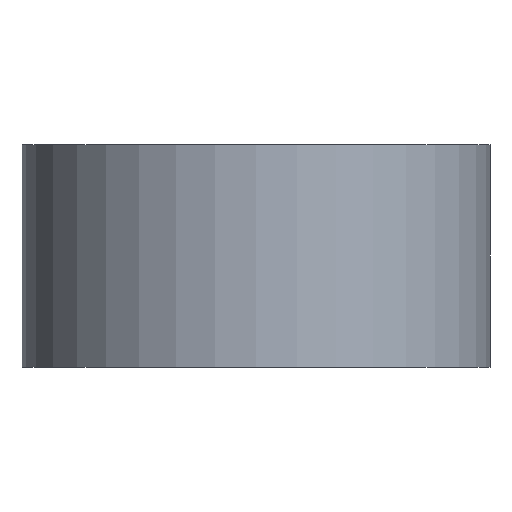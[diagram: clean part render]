
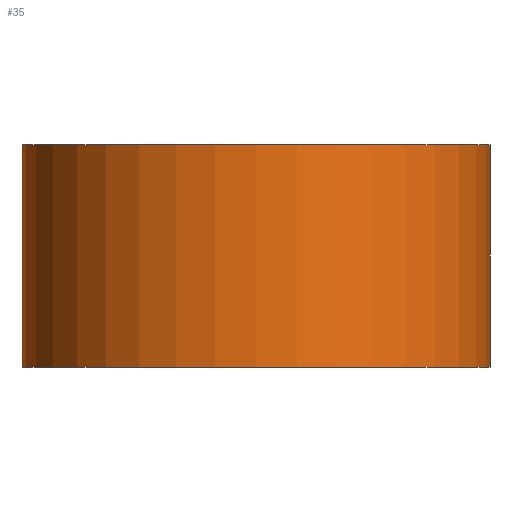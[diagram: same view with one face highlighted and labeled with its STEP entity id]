
A CAD part, front view. The second image highlights one B-rep face of the part: STEP entity #35.
In plain terms, the highlighted cylindrical face has radius 6.1 mm (diameter 12.2 mm), a full revolution.
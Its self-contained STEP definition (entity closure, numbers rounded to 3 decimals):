
#35 = ADVANCED_FACE('',(#36),#49,.T.);
#36 = FACE_BOUND('',#37,.T.);
#37 = EDGE_LOOP('',(#38,#72,#95,#122));
#38 = ORIENTED_EDGE('',*,*,#39,.F.);
#39 = EDGE_CURVE('',#40,#40,#42,.T.);
#40 = VERTEX_POINT('',#41);
#41 = CARTESIAN_POINT('',(6.1,0.,2.9));
#42 = SURFACE_CURVE('',#43,(#48,#60),.PCURVE_S1.);
#43 = CIRCLE('',#44,6.1);
#44 = AXIS2_PLACEMENT_3D('',#45,#46,#47);
#45 = CARTESIAN_POINT('',(0.,0.,2.9));
#46 = DIRECTION('',(0.,0.,1.));
#47 = DIRECTION('',(1.,0.,-0.));
#48 = PCURVE('',#49,#54);
#49 = CYLINDRICAL_SURFACE('',#50,6.1);
#50 = AXIS2_PLACEMENT_3D('',#51,#52,#53);
#51 = CARTESIAN_POINT('',(0.,0.,-2.9));
#52 = DIRECTION('',(0.,0.,1.));
#53 = DIRECTION('',(1.,0.,-0.));
#54 = DEFINITIONAL_REPRESENTATION('',(#55),#59);
#55 = LINE('',#56,#57);
#56 = CARTESIAN_POINT('',(0.,5.8));
#57 = VECTOR('',#58,1.);
#58 = DIRECTION('',(1.,0.));
#59 = ( GEOMETRIC_REPRESENTATION_CONTEXT(2) 
PARAMETRIC_REPRESENTATION_CONTEXT() REPRESENTATION_CONTEXT('2D SPACE',''
  ) );
#60 = PCURVE('',#61,#66);
#61 = PLANE('',#62);
#62 = AXIS2_PLACEMENT_3D('',#63,#64,#65);
#63 = CARTESIAN_POINT('',(0.,0.,2.9));
#64 = DIRECTION('',(0.,0.,1.));
#65 = DIRECTION('',(1.,0.,-0.));
#66 = DEFINITIONAL_REPRESENTATION('',(#67),#71);
#67 = CIRCLE('',#68,6.1);
#68 = AXIS2_PLACEMENT_2D('',#69,#70);
#69 = CARTESIAN_POINT('',(0.,0.));
#70 = DIRECTION('',(1.,0.));
#71 = ( GEOMETRIC_REPRESENTATION_CONTEXT(2) 
PARAMETRIC_REPRESENTATION_CONTEXT() REPRESENTATION_CONTEXT('2D SPACE',''
  ) );
#72 = ORIENTED_EDGE('',*,*,#73,.F.);
#73 = EDGE_CURVE('',#74,#40,#76,.T.);
#74 = VERTEX_POINT('',#75);
#75 = CARTESIAN_POINT('',(6.1,0.,-2.9));
#76 = SEAM_CURVE('',#77,(#81,#88),.PCURVE_S1.);
#77 = LINE('',#78,#79);
#78 = CARTESIAN_POINT('',(6.1,0.,-2.9));
#79 = VECTOR('',#80,1.);
#80 = DIRECTION('',(0.,0.,1.));
#81 = PCURVE('',#49,#82);
#82 = DEFINITIONAL_REPRESENTATION('',(#83),#87);
#83 = LINE('',#84,#85);
#84 = CARTESIAN_POINT('',(0.,0.));
#85 = VECTOR('',#86,1.);
#86 = DIRECTION('',(0.,1.));
#87 = ( GEOMETRIC_REPRESENTATION_CONTEXT(2) 
PARAMETRIC_REPRESENTATION_CONTEXT() REPRESENTATION_CONTEXT('2D SPACE',''
  ) );
#88 = PCURVE('',#49,#89);
#89 = DEFINITIONAL_REPRESENTATION('',(#90),#94);
#90 = LINE('',#91,#92);
#91 = CARTESIAN_POINT('',(6.283,0.));
#92 = VECTOR('',#93,1.);
#93 = DIRECTION('',(0.,1.));
#94 = ( GEOMETRIC_REPRESENTATION_CONTEXT(2) 
PARAMETRIC_REPRESENTATION_CONTEXT() REPRESENTATION_CONTEXT('2D SPACE',''
  ) );
#95 = ORIENTED_EDGE('',*,*,#96,.T.);
#96 = EDGE_CURVE('',#74,#74,#97,.T.);
#97 = SURFACE_CURVE('',#98,(#103,#110),.PCURVE_S1.);
#98 = CIRCLE('',#99,6.1);
#99 = AXIS2_PLACEMENT_3D('',#100,#101,#102);
#100 = CARTESIAN_POINT('',(0.,0.,-2.9));
#101 = DIRECTION('',(0.,0.,1.));
#102 = DIRECTION('',(1.,0.,-0.));
#103 = PCURVE('',#49,#104);
#104 = DEFINITIONAL_REPRESENTATION('',(#105),#109);
#105 = LINE('',#106,#107);
#106 = CARTESIAN_POINT('',(0.,0.));
#107 = VECTOR('',#108,1.);
#108 = DIRECTION('',(1.,0.));
#109 = ( GEOMETRIC_REPRESENTATION_CONTEXT(2) 
PARAMETRIC_REPRESENTATION_CONTEXT() REPRESENTATION_CONTEXT('2D SPACE',''
  ) );
#110 = PCURVE('',#111,#116);
#111 = PLANE('',#112);
#112 = AXIS2_PLACEMENT_3D('',#113,#114,#115);
#113 = CARTESIAN_POINT('',(0.,0.,-2.9));
#114 = DIRECTION('',(0.,0.,1.));
#115 = DIRECTION('',(1.,0.,-0.));
#116 = DEFINITIONAL_REPRESENTATION('',(#117),#121);
#117 = CIRCLE('',#118,6.1);
#118 = AXIS2_PLACEMENT_2D('',#119,#120);
#119 = CARTESIAN_POINT('',(0.,0.));
#120 = DIRECTION('',(1.,0.));
#121 = ( GEOMETRIC_REPRESENTATION_CONTEXT(2) 
PARAMETRIC_REPRESENTATION_CONTEXT() REPRESENTATION_CONTEXT('2D SPACE',''
  ) );
#122 = ORIENTED_EDGE('',*,*,#73,.T.);
